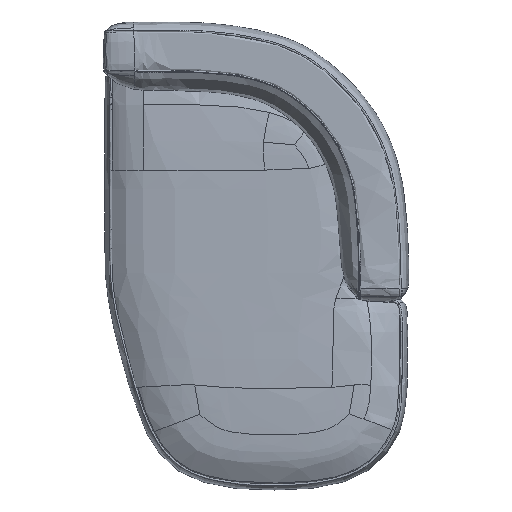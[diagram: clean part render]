
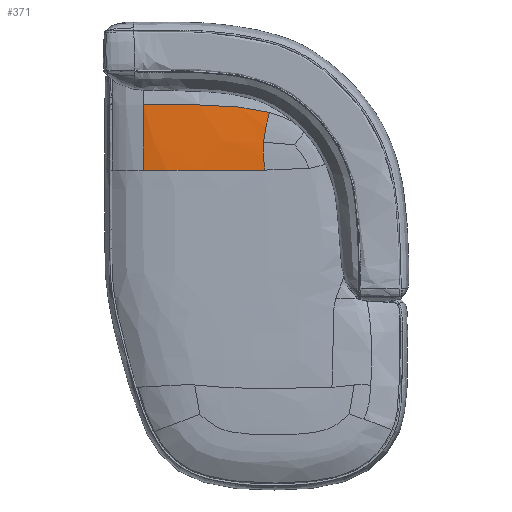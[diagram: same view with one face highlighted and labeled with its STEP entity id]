
A CAD part, top view. The second image highlights one B-rep face of the part: STEP entity #371.
In plain terms, the highlighted free-form (B-spline) face has degree [3, 3] with [7, 9] control points.
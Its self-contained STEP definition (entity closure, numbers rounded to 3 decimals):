
#371=ADVANCED_FACE('',(#571),#3015,.T.);
#571=FACE_OUTER_BOUND('',#771,.T.);
#771=EDGE_LOOP('',(#1282,#1283,#1284,#1285,#1286));
#1282=ORIENTED_EDGE('',*,*,#1935,.T.);
#1283=ORIENTED_EDGE('',*,*,#1936,.T.);
#1284=ORIENTED_EDGE('',*,*,#1879,.F.);
#1285=ORIENTED_EDGE('',*,*,#1856,.T.);
#1286=ORIENTED_EDGE('',*,*,#1933,.T.);
#1856=EDGE_CURVE('',#2775,#2779,#2328,.T.);
#1879=EDGE_CURVE('',#2775,#2723,#2351,.T.);
#1933=EDGE_CURVE('',#2779,#2727,#2405,.T.);
#1935=EDGE_CURVE('',#2727,#2724,#2407,.T.);
#1936=EDGE_CURVE('',#2724,#2723,#2408,.T.);
#2328=B_SPLINE_CURVE_WITH_KNOTS('',3,(#10685,#10686,#10687,#10688,#10689),
 .UNSPECIFIED.,.F.,.F.,(4,1,4),(-1.,-0.5,0.),.UNSPECIFIED.);
#2351=B_SPLINE_CURVE_WITH_KNOTS('',3,(#10906,#10907,#10908,#10909,#10910,
#10911,#10912,#10913,#10914),.UNSPECIFIED.,.F.,.F.,(4,1,1,1,1,1,4),(0.,
0.167,0.333,0.5,0.667,0.833,
1.),.UNSPECIFIED.);
#2405=B_SPLINE_CURVE_WITH_KNOTS('',3,(#11311,#11312,#11313,#11314,#11315,
#11316,#11317,#11318,#11319),.UNSPECIFIED.,.F.,.F.,(4,1,1,1,1,1,4),(-1.,
-0.833,-0.667,-0.5,-0.333,-0.167,
0.),.UNSPECIFIED.);
#2407=B_SPLINE_CURVE_WITH_KNOTS('',3,(#11329,#11330,#11331,#11332,#11333,
#11334,#11335,#11336,#11337),.UNSPECIFIED.,.F.,.F.,(4,1,1,1,1,1,4),(0.,
0.5,1.,1.25,1.5,1.75,2.),.UNSPECIFIED.);
#2408=B_SPLINE_CURVE_WITH_KNOTS('',3,(#11338,#11339,#11340,#11341,#11342,
#11343,#11344,#11345,#11346),.UNSPECIFIED.,.F.,.F.,(4,1,1,1,1,1,4),(0.,
0.25,0.5,0.75,1.,1.5,2.),.UNSPECIFIED.);
#2723=VERTEX_POINT('',#10426);
#2724=VERTEX_POINT('',#10427);
#2727=VERTEX_POINT('',#10430);
#2775=VERTEX_POINT('',#10478);
#2779=VERTEX_POINT('',#10482);
#3015=B_SPLINE_SURFACE_WITH_KNOTS('',3,3,((#8607,#8608,#8609,#8610,#8611,
#8612,#8613,#8614,#8615),(#8616,#8617,#8618,#8619,#8620,#8621,#8622,#8623,
#8624),(#8625,#8626,#8627,#8628,#8629,#8630,#8631,#8632,#8633),(#8634,#8635,
#8636,#8637,#8638,#8639,#8640,#8641,#8642),(#8643,#8644,#8645,#8646,#8647,
#8648,#8649,#8650,#8651),(#8652,#8653,#8654,#8655,#8656,#8657,#8658,#8659,
#8660),(#8661,#8662,#8663,#8664,#8665,#8666,#8667,#8668,#8669)),
 .UNSPECIFIED.,.F.,.F.,.F.,(4,1,1,1,4),(4,1,3,1,4),(0.,1.,2.,3.,4.),(0.,
1.,2.,3.,4.),.UNSPECIFIED.);
#8607=CARTESIAN_POINT('',(47486.448,-30401.533,282.898));
#8608=CARTESIAN_POINT('',(47453.9,-30401.533,282.898));
#8609=CARTESIAN_POINT('',(47394.989,-30401.533,282.898));
#8610=CARTESIAN_POINT('',(47335.226,-30401.533,282.898));
#8611=CARTESIAN_POINT('',(47301.826,-30401.533,282.898));
#8612=CARTESIAN_POINT('',(47235.026,-30401.533,282.898));
#8613=CARTESIAN_POINT('',(47073.274,-30401.533,282.898));
#8614=CARTESIAN_POINT('',(46985.874,-30401.533,271.658));
#8615=CARTESIAN_POINT('',(46953.099,-30401.533,265.558));
#8616=CARTESIAN_POINT('',(47483.894,-30376.713,282.747));
#8617=CARTESIAN_POINT('',(47452.424,-30376.713,282.747));
#8618=CARTESIAN_POINT('',(47394.691,-30376.713,282.747));
#8619=CARTESIAN_POINT('',(47335.077,-30376.713,282.747));
#8620=CARTESIAN_POINT('',(47301.727,-30376.713,282.747));
#8621=CARTESIAN_POINT('',(47235.026,-30376.713,282.747));
#8622=CARTESIAN_POINT('',(47073.274,-30376.713,282.747));
#8623=CARTESIAN_POINT('',(46985.874,-30376.713,271.608));
#8624=CARTESIAN_POINT('',(46953.099,-30376.713,265.533));
#8625=CARTESIAN_POINT('',(47478.462,-30336.081,282.293));
#8626=CARTESIAN_POINT('',(47449.51,-30336.081,282.293));
#8627=CARTESIAN_POINT('',(47394.393,-30336.081,282.293));
#8628=CARTESIAN_POINT('',(47334.928,-30336.081,282.293));
#8629=CARTESIAN_POINT('',(47301.628,-30336.081,282.293));
#8630=CARTESIAN_POINT('',(47235.026,-30336.081,282.293));
#8631=CARTESIAN_POINT('',(47073.274,-30336.081,282.293));
#8632=CARTESIAN_POINT('',(46985.874,-30336.081,271.457));
#8633=CARTESIAN_POINT('',(46953.099,-30336.081,265.457));
#8634=CARTESIAN_POINT('',(47477.152,-30281.667,280.25));
#8635=CARTESIAN_POINT('',(47450.712,-30280.513,280.25));
#8636=CARTESIAN_POINT('',(47397.179,-30278.74,280.25));
#8637=CARTESIAN_POINT('',(47336.322,-30277.812,280.25));
#8638=CARTESIAN_POINT('',(47302.556,-30277.502,280.25));
#8639=CARTESIAN_POINT('',(47235.026,-30276.883,280.25));
#8640=CARTESIAN_POINT('',(47073.274,-30276.883,280.25));
#8641=CARTESIAN_POINT('',(46985.874,-30276.883,270.775));
#8642=CARTESIAN_POINT('',(46953.099,-30276.883,265.117));
#8643=CARTESIAN_POINT('',(47490.492,-30213.295,275.934));
#8644=CARTESIAN_POINT('',(47462.954,-30208.679,275.934));
#8645=CARTESIAN_POINT('',(47405.537,-30201.588,275.934));
#8646=CARTESIAN_POINT('',(47340.501,-30197.874,275.934));
#8647=CARTESIAN_POINT('',(47305.342,-30196.636,275.934));
#8648=CARTESIAN_POINT('',(47235.026,-30194.161,275.934));
#8649=CARTESIAN_POINT('',(47073.274,-30194.161,275.934));
#8650=CARTESIAN_POINT('',(46985.874,-30194.161,269.337));
#8651=CARTESIAN_POINT('',(46953.099,-30194.161,264.397));
#8652=CARTESIAN_POINT('',(47501.55,-30168.51,270.633));
#8653=CARTESIAN_POINT('',(47472.359,-30161.35,270.758));
#8654=CARTESIAN_POINT('',(47411.352,-30150.341,270.96));
#8655=CARTESIAN_POINT('',(47343.408,-30144.569,271.077));
#8656=CARTESIAN_POINT('',(47307.28,-30142.645,271.115));
#8657=CARTESIAN_POINT('',(47235.026,-30138.796,271.193));
#8658=CARTESIAN_POINT('',(47073.274,-30138.796,271.193));
#8659=CARTESIAN_POINT('',(46985.874,-30138.796,266.66));
#8660=CARTESIAN_POINT('',(46953.099,-30138.796,262.511));
#8661=CARTESIAN_POINT('',(47505.719,-30148.842,267.15));
#8662=CARTESIAN_POINT('',(47475.843,-30140.676,267.399));
#8663=CARTESIAN_POINT('',(47413.451,-30128.115,267.803));
#8664=CARTESIAN_POINT('',(47344.457,-30121.521,268.036));
#8665=CARTESIAN_POINT('',(47307.98,-30119.323,268.114));
#8666=CARTESIAN_POINT('',(47235.026,-30114.927,268.269));
#8667=CARTESIAN_POINT('',(47073.274,-30114.927,268.269));
#8668=CARTESIAN_POINT('',(46985.874,-30114.927,264.588));
#8669=CARTESIAN_POINT('',(46953.099,-30114.927,260.927));
#10426=CARTESIAN_POINT('',(47505.719,-30148.842,267.15));
#10427=CARTESIAN_POINT('',(47479.594,-30279.34,279.871));
#10430=CARTESIAN_POINT('',(47486.448,-30401.533,282.898));
#10478=CARTESIAN_POINT('',(46953.099,-30114.927,260.927));
#10482=CARTESIAN_POINT('',(46953.099,-30401.533,265.558));
#10685=CARTESIAN_POINT('',(46953.099,-30114.927,260.927));
#10686=CARTESIAN_POINT('',(46953.099,-30162.666,264.095));
#10687=CARTESIAN_POINT('',(46953.099,-30288.646,265.306));
#10688=CARTESIAN_POINT('',(46953.099,-30351.893,265.508));
#10689=CARTESIAN_POINT('',(46953.099,-30401.533,265.558));
#10906=CARTESIAN_POINT('',(46953.099,-30114.927,260.927));
#10907=CARTESIAN_POINT('',(46969.487,-30114.927,262.757));
#10908=CARTESIAN_POINT('',(47007.724,-30114.927,265.509));
#10909=CARTESIAN_POINT('',(47087.215,-30114.927,267.579));
#10910=CARTESIAN_POINT('',(47194.588,-30114.927,268.269));
#10911=CARTESIAN_POINT('',(47309.961,-30118.224,268.152));
#10912=CARTESIAN_POINT('',(47413.451,-30128.115,267.803));
#10913=CARTESIAN_POINT('',(47475.843,-30140.676,267.399));
#10914=CARTESIAN_POINT('',(47505.719,-30148.842,267.15));
#11311=CARTESIAN_POINT('',(46953.099,-30401.533,265.558));
#11312=CARTESIAN_POINT('',(46969.487,-30401.533,268.608));
#11313=CARTESIAN_POINT('',(47007.724,-30401.533,274.468));
#11314=CARTESIAN_POINT('',(47087.215,-30401.533,280.791));
#11315=CARTESIAN_POINT('',(47194.588,-30401.533,282.898));
#11316=CARTESIAN_POINT('',(47305.345,-30401.533,282.898));
#11317=CARTESIAN_POINT('',(47394.989,-30401.533,282.898));
#11318=CARTESIAN_POINT('',(47453.9,-30401.533,282.898));
#11319=CARTESIAN_POINT('',(47486.448,-30401.533,282.898));
#11329=CARTESIAN_POINT('',(47486.448,-30401.533,282.898));
#11330=CARTESIAN_POINT('',(47485.171,-30389.123,282.823));
#11331=CARTESIAN_POINT('',(47482.536,-30366.555,282.633));
#11332=CARTESIAN_POINT('',(47479.854,-30341.841,282.208));
#11333=CARTESIAN_POINT('',(47478.562,-30322.886,281.697));
#11334=CARTESIAN_POINT('',(47478.143,-30308.758,281.215));
#11335=CARTESIAN_POINT('',(47478.395,-30294.398,280.619));
#11336=CARTESIAN_POINT('',(47479.093,-30284.457,280.136));
#11337=CARTESIAN_POINT('',(47479.594,-30279.34,279.871));
#11338=CARTESIAN_POINT('',(47479.594,-30279.34,279.871));
#11339=CARTESIAN_POINT('',(47480.095,-30274.224,279.606));
#11340=CARTESIAN_POINT('',(47481.403,-30263.701,279.029));
#11341=CARTESIAN_POINT('',(47484.102,-30247.281,278.));
#11342=CARTESIAN_POINT('',(47487.36,-30230.462,276.786));
#11343=CARTESIAN_POINT('',(47492.213,-30207.821,274.893));
#11344=CARTESIAN_POINT('',(47498.785,-30179.706,271.959));
#11345=CARTESIAN_POINT('',(47503.634,-30158.676,268.892));
#11346=CARTESIAN_POINT('',(47505.719,-30148.842,267.15));
